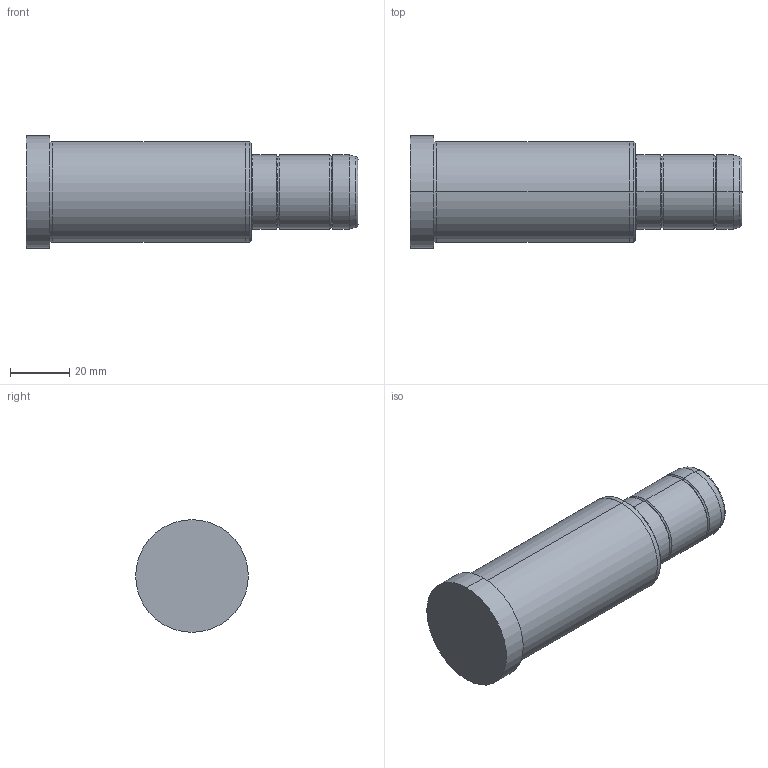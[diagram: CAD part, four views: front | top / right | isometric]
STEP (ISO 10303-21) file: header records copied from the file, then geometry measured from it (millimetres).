
FILE_DESCRIPTION( ( 'STEP AP203' ), '1' );
FILE_NAME( 'C:/Projects/D02 - 25x76x36.step', '2002-12-31T22:22:29', ( ' ' ), ( ' ' ), 'XStep 1.0', ' ', ' ' );
FILE_SCHEMA( ( 'CONFIG_CONTROL_DESIGN' ) );
Length unit declared in the file: metre
Products named in the file (1): 1
Bounding box: 112 x 38 x 38 mm (x, y, z)
Volume: 88381.9 mm3; surface area: 13277.8 mm2
Topology: 1 solids, 1 shells, 36 faces, 70 edges, 40 vertices
Faces by surface type: bspline 18, revolution 18
Entity records: 1127 total; most frequent: CARTESIAN_POINT 417, ORIENTED_EDGE 140, DIRECTION 118, EDGE_CURVE 70, AXIS2_PLACEMENT_3D 41, EDGE_LOOP 40, VERTEX_POINT 40, CIRCLE 40
